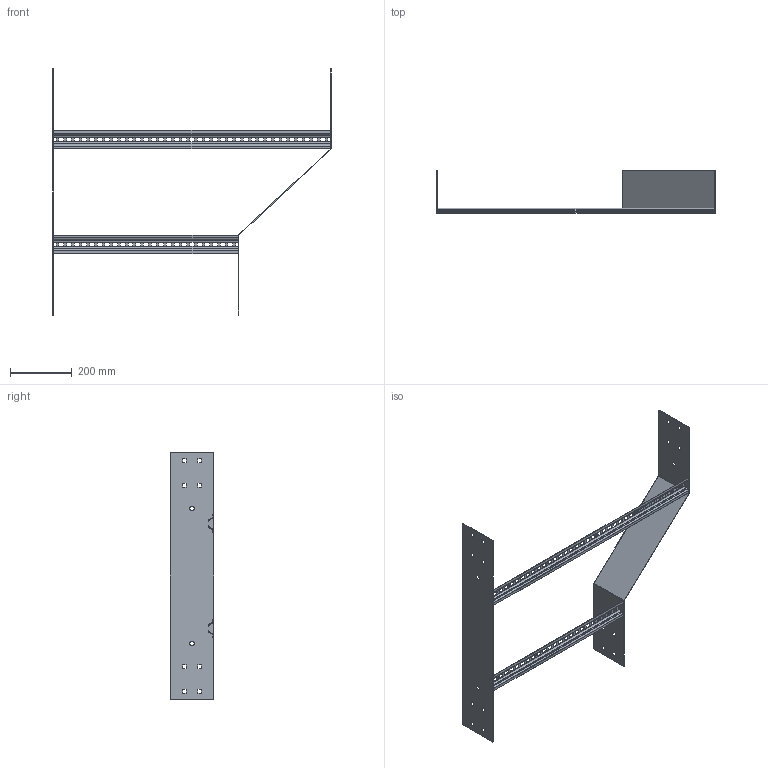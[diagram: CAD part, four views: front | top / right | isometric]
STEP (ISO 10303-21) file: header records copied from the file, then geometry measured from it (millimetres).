
FILE_DESCRIPTION (( 'STEP AP203' ), '1' );
FILE_NAME ('N20C LHR900600.STEP', '2024-08-28T22:27:01', ( '' ), ( '' ), 'SwSTEP 2.0', 'SolidWorks 2023', '' );
FILE_SCHEMA (( 'CONFIG_CONTROL_DESIGN' ));
Length unit declared in the file: millimetre
Products named in the file (5): Ladder Rung_Ladder Rung -  900mm; N20C REDUCER_LHR600x900; Ladder Rung_Ladder Rung -  600mm; N20C Tee Back Plate_800; N20C LHR900600
Assembly tree (4 placements, depth 2):
  N20C LHR900600
    N20C REDUCER_LHR600x900
    Ladder Rung_Ladder Rung -  600mm
    Ladder Rung_Ladder Rung -  900mm
    N20C Tee Back Plate_800
Bounding box: 904 x 140 x 800 mm (x, y, z)
Volume: 638658 mm3; surface area: 699359.1 mm2
Topology: 4 solids, 4 shells, 424 faces, 1168 edges, 752 vertices
Faces by surface type: plane 396, cylinder 28
Entity records: 13983 total; most frequent: CARTESIAN_POINT 2351, ORIENTED_EDGE 2336, DIRECTION 2086, EDGE_CURVE 1168, VECTOR 1112, LINE 1112, VERTEX_POINT 752, EDGE_LOOP 580
